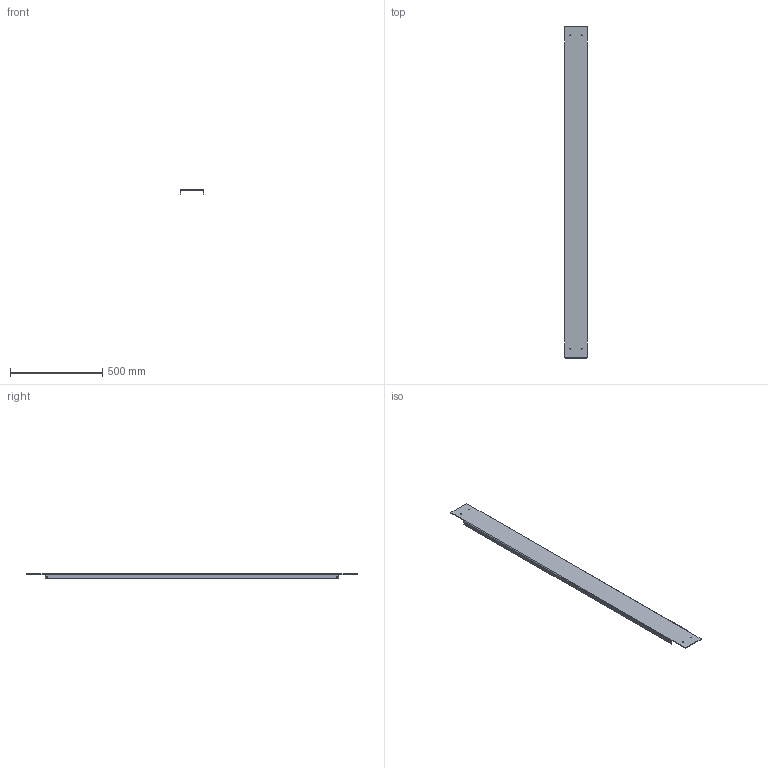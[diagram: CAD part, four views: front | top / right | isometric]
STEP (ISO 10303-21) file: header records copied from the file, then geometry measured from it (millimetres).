
FILE_DESCRIPTION(('HOOPS Exchange Step'),'2;1');
FILE_NAME('/private/var/mobile/Containers/Data/Application/E4481369-A8C6-45C6-A958-B1853E49479D/tmp/export/temp_export','2021-04-12T21:16:00+00:00',('mobile'),('Shapr3D Limited'),'HOOPS Exchange 2020.2','Shapr3D','Authorized');
FILE_SCHEMA( ('AP203_CONFIGURATION_CONTROLLED_3D_DESIGN_OF_MECHANICAL_PARTS_AND_ASSEMBLIES_MIM_LF') );
Length unit declared in the file: millimetre
Products named in the file (2): 0; /private/var/mobile/Containers/Data/Application/E4481369-A8C6-45C6-A958-B1853E49479D/tmp/9E5676D2-BE35-4B3B-BD6E-FD2A11061573.tmp
Assembly tree (1 placements, depth 2):
  /private/var/mobile/Containers/Data/Application/E4481369-A8C6-45C6-A958-B1853E49479D/tmp/9E5676D2-BE35-4B3B-BD6E-FD2A11061573.tmp
    0
Bounding box: 130 x 1800 x 24 mm (x, y, z)
Volume: 1165314.5 mm3; surface area: 598905.7 mm2
Topology: 1 solids, 1 shells, 38 faces, 112 edges, 76 vertices
Faces by surface type: cylinder 20, plane 18
Full cylindrical faces by diameter (mm): 5.2 x8
Entity records: 1379 total; most frequent: DIRECTION 246, CARTESIAN_POINT 229, ORIENTED_EDGE 224, EDGE_CURVE 112, AXIS2_PLACEMENT_3D 93, VERTEX_POINT 76, VECTOR 60, LINE 60
